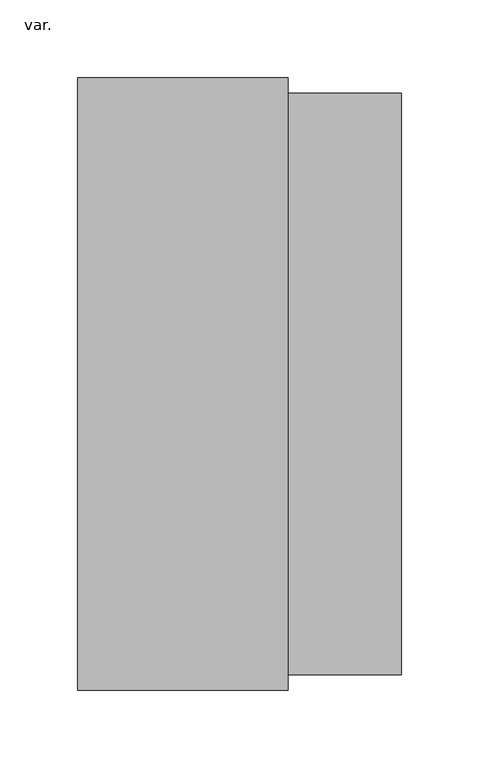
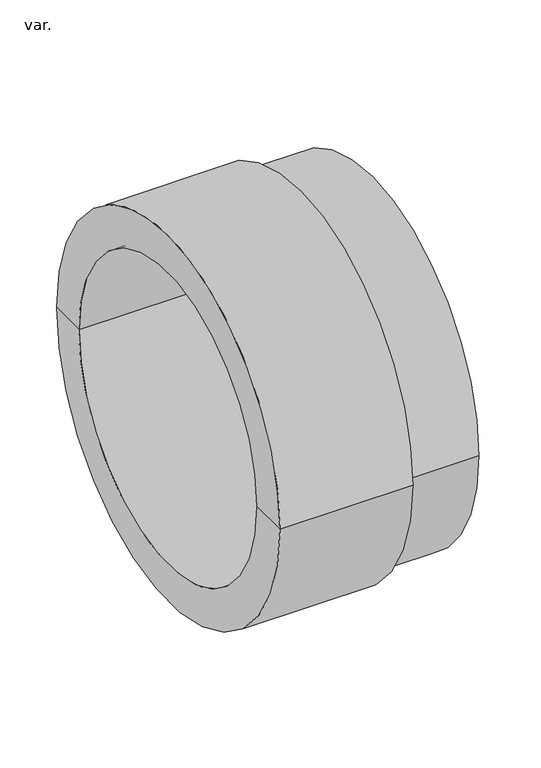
"""IFC4 building model written with IfcOpenShell, lengths in millimetres: pipe fitting geometry, PavcoWavin_UnionesDeTubería_NoUsarConectorSalida : var.."""

from ifc_helpers import new_model, si_unit, frame, origin, place, context, project, spatial, polyline, circle_curve, source, transform, mapped, element, save
from ifc_brep_helpers import plane_surface, cylinder_surface, revolved_surface, advanced_brep


def var_a0095c66(model_context):
    return source(origin(), model_context, "Body", "AdvancedBrep", [
        advanced_brep(
        [(139.7546411, -187.5, 0.0), (139.7546411, 187.5, 0.0), (139.7546411, 157.5, 0.0), (139.7546411, -157.5, 0.0), (66.6046411, -187.5, 0.0), (66.6046411, 187.5, 0.0), (66.6046411, -197.5, 0.0), (66.6046411, 197.5, 0.0), (-69.2453589, -197.5, 0.0), (-69.2453589, 197.5, 0.0), (-69.2453589, -157.5, 0.0), (-69.2453589, 157.5, 0.0)],
        [
            (0, 1, circle_curve(frame((139.7546411, 0.0, 0.0), z_axis=(1.0, 0.0, 0.0), x_axis=(0.0, 1.0, 0.0)), 187.5)),
            (1, 2),
            (2, 3, circle_curve(frame((139.7546411, 0.0, 0.0), z_axis=(-1.0, 0.0, 0.0), x_axis=(0.0, 1.0, 0.0)), 157.5)),
            (3, 0),
            (1, 0, circle_curve(frame((139.7546411, 0.0, 0.0), z_axis=(1.0, 0.0, 0.0), x_axis=(0.0, 1.0, 0.0)), 187.5)),
            (3, 2, circle_curve(frame((139.7546411, 0.0, 0.0), z_axis=(-1.0, 0.0, 0.0), x_axis=(0.0, 1.0, 0.0)), 157.5)),
            (4, 5, circle_curve(frame((66.6046411, 0.0, 0.0), z_axis=(1.0, 0.0, 0.0), x_axis=(0.0, 1.0, 0.0)), 187.5)),
            (5, 1),
            (0, 4),
            (5, 4, circle_curve(frame((66.6046411, 0.0, 0.0), z_axis=(1.0, 0.0, 0.0), x_axis=(0.0, 1.0, 0.0)), 187.5)),
            (6, 7, circle_curve(frame((66.6046411, 0.0, 0.0), z_axis=(1.0, 0.0, 0.0), x_axis=(0.0, 1.0, 0.0)), 197.5)),
            (7, 5),
            (4, 6),
            (7, 6, circle_curve(frame((66.6046411, 0.0, 0.0), z_axis=(1.0, 0.0, 0.0), x_axis=(0.0, 1.0, 0.0)), 197.5)),
            (8, 9, circle_curve(frame((-69.2453589, 0.0, 0.0), z_axis=(1.0, 0.0, 0.0), x_axis=(0.0, 1.0, 0.0)), 197.5)),
            (9, 7),
            (6, 8),
            (9, 8, circle_curve(frame((-69.2453589, 0.0, 0.0), z_axis=(1.0, 0.0, 0.0), x_axis=(0.0, 1.0, 0.0)), 197.5)),
            (10, 11, circle_curve(frame((-69.2453589, 0.0, 0.0), z_axis=(1.0, 0.0, 0.0), x_axis=(0.0, 1.0, 0.0)), 157.5)),
            (11, 9),
            (8, 10),
            (11, 10, circle_curve(frame((-69.2453589, 0.0, 0.0), z_axis=(1.0, 0.0, 0.0), x_axis=(0.0, 1.0, 0.0)), 157.5)),
            (2, 11),
            (10, 3),
        ],
        [
            plane_surface(frame((139.7546411, 0.0, 0.0), z_axis=(1.0, 0.0, 0.0), x_axis=(0.0, 1.0, 0.0))),
            cylinder_surface(frame((-69.2453589, 0.0, 0.0), z_axis=(-1.0, 0.0, 0.0), x_axis=(0.0, 1.0, 0.0)), 187.5),
            plane_surface(frame((66.6046411, 0.0, 0.0), z_axis=(1.0, 0.0, 0.0), x_axis=(0.0, 1.0, 0.0))),
            cylinder_surface(frame((-69.2453589, 0.0, 0.0), z_axis=(-1.0, 0.0, 0.0), x_axis=(0.0, 1.0, 0.0)), 197.5),
            plane_surface(frame((-69.2453589, 0.0, 0.0), z_axis=(-1.0, 0.0, 0.0), x_axis=(0.0, 1.0, 0.0))),
            revolved_surface(polyline([(-69.2453589, 157.5, 0.0), (139.75464110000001, 157.5, 0.0)]), (-69.2453589, 0.0, 0.0), (-1.0, 0.0, 0.0)),
        ],
        [
            (0, [[1, 2, 3, 4]]),
            (0, [[5, -4, 6, -2]]),
            (1, [[7, 8, -1, 9]]),
            (1, [[10, -9, -5, -8]]),
            (2, [[11, 12, -7, 13]]),
            (2, [[14, -13, -10, -12]]),
            (3, [[15, 16, -11, 17]]),
            (3, [[18, -17, -14, -16]]),
            (4, [[19, 20, -15, 21]]),
            (4, [[22, -21, -18, -20]]),
            (5, [[-3, 23, -19, 24]]),
            (5, [[-6, -24, -22, -23]]),
        ],
    ),
    ])


if __name__ == "__main__":
    model = new_model("IFC4")
    model_context = context("Model", 3, world=origin())
    ifc_project = project(units=[si_unit("LENGTHUNIT", "METRE", prefix="MILLI")], contexts=[model_context])
    site = spatial("IfcSite", under=ifc_project)
    building = spatial("IfcBuilding", under=site)
    placement = place(None, origin())
    var_shape = var_a0095c66(model_context)
    element("IfcPipeFitting", 1, ObjectType="PavcoWavin_UnionesDeTubería_NoUsarConectorSalida : var.", at=placement, inside=building, context=model_context, shape_type="MappedRepresentation", body=[
        mapped(var_shape, transform((0.0, 0.0, 0.0), x_axis=(1.0, 0.0, 0.0), y_axis=(0.0, 1.0, 0.0), z_axis=(0.0, 0.0, 1.0))),
    ])
    save(model, "model.ifc")
